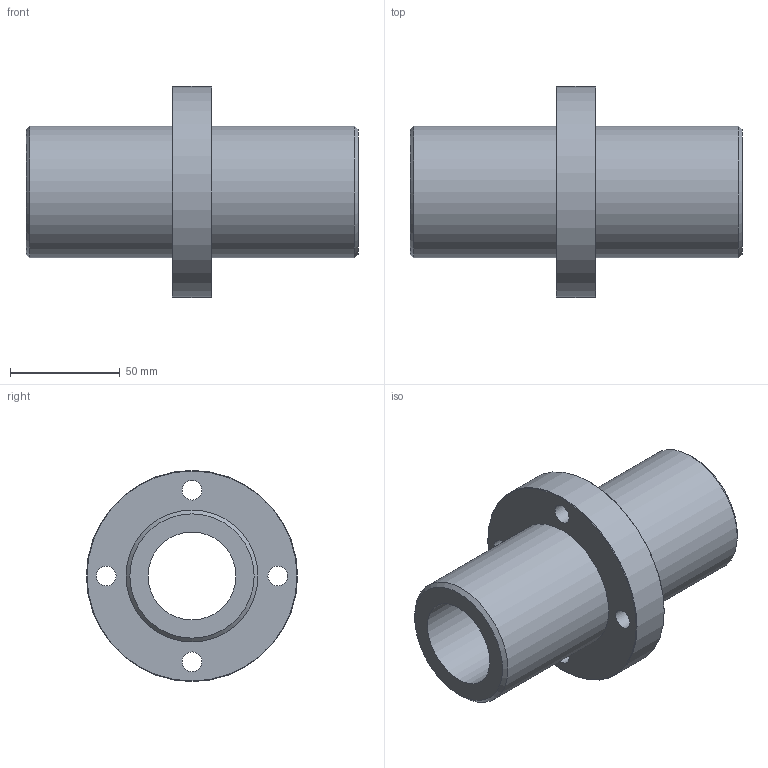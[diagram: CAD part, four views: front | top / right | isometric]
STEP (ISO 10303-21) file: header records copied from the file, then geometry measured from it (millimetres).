
FILE_DESCRIPTION(('STEP AP203'),'1');
FILE_NAME('//192.168.1.1/share/s-4 技術開発/s-4-4_CAD/s-4-4-3_見直し済み/PBC LINEAR修正済み/CFPJ/CFPJ_TOP/CFPJR/CFPJR40.step','2022-03-24T04:14:22',(' '),(' '),'Spatial InterOp 3D',' ',' ');
FILE_SCHEMA(('CONFIG_CONTROL_DESIGN'));
Length unit declared in the file: millimetre
Products named in the file (1): 1
Bounding box: 151 x 96 x 96 mm (x, y, z)
Volume: 308492.3 mm3; surface area: 62988.4 mm2
Topology: 1 solids, 1 shells, 24 faces, 50 edges, 34 vertices
Faces by surface type: cylinder 12, plane 8, cone 4
Full cylindrical faces by diameter (mm): 9 x4, 14 x4, 40 x1, 60 x2, 96 x1
Entity records: 588 total; most frequent: DIRECTION 106, CARTESIAN_POINT 81, EDGE_LOOP 56, ORIENTED_EDGE 56, AXIS2_PLACEMENT_3D 53, FACE_OUTER_BOUND 36, EDGE_CURVE 28, VERTEX_POINT 28
